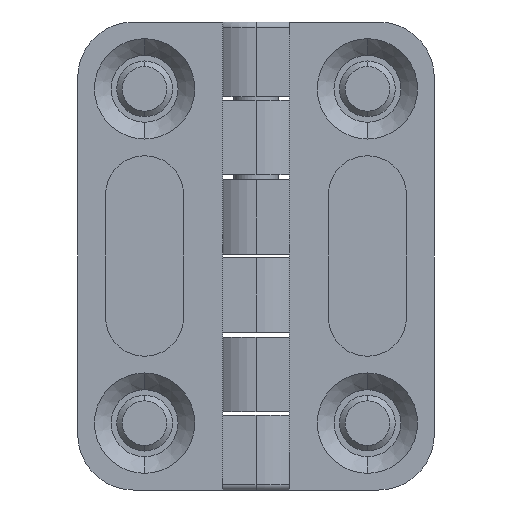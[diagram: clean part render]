
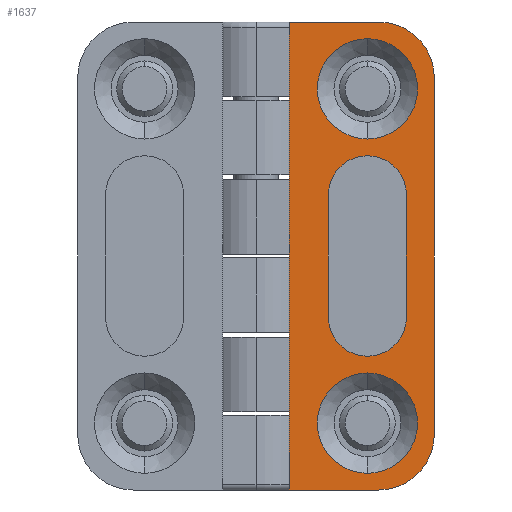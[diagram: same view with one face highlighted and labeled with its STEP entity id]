
A CAD part, front view. The second image highlights one B-rep face of the part: STEP entity #1637.
In plain terms, the highlighted planar face has unit normal (0, -1, 0).
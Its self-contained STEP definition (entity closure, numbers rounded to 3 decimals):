
#13 = VERTEX_POINT ( 'NONE', #156 ) ;
#39 = CIRCLE ( 'NONE', #117, 4.5 ) ;
#75 = EDGE_CURVE ( 'NONE', #1373, #1875, #2124, .T. ) ;
#85 = CARTESIAN_POINT ( 'NONE',  ( 3., -5., 42. ) ) ;
#87 = VERTEX_POINT ( 'NONE', #1918 ) ;
#90 = DIRECTION ( 'NONE',  ( 0., 0., 1. ) ) ;
#108 = EDGE_CURVE ( 'NONE', #2176, #574, #112, .T. ) ;
#110 = DIRECTION ( 'NONE',  ( 0., 1., 0. ) ) ;
#112 = LINE ( 'NONE', #2352, #942 ) ;
#117 = AXIS2_PLACEMENT_3D ( 'NONE', #2267, #487, #255 ) ;
#143 = DIRECTION ( 'NONE',  ( 0., -1., 0. ) ) ;
#147 = EDGE_CURVE ( 'NONE', #641, #87, #2570, .T. ) ;
#149 = VECTOR ( 'NONE', #1257, 1000. ) ;
#156 = CARTESIAN_POINT ( 'NONE',  ( 10., -5., 40.5 ) ) ;
#158 = DIRECTION ( 'NONE',  ( 0., 1., 0. ) ) ;
#179 = EDGE_CURVE ( 'NONE', #641, #1850, #2393, .T. ) ;
#213 = VERTEX_POINT ( 'NONE', #1636 ) ;
#238 = LINE ( 'NONE', #1049, #149 ) ;
#255 = DIRECTION ( 'NONE',  ( 0., 0., 1. ) ) ;
#258 = EDGE_LOOP ( 'NONE', ( #1639, #926, #1092, #696, #1280, #1980 ) ) ;
#272 = CARTESIAN_POINT ( 'NONE',  ( 10., -5., 1.5 ) ) ;
#285 = CARTESIAN_POINT ( 'NONE',  ( 13.5, -5., 30. ) ) ;
#304 = DIRECTION ( 'NONE',  ( 0., 0., 1. ) ) ;
#318 = DIRECTION ( 'NONE',  ( 0., 0., 1. ) ) ;
#331 = ORIENTED_EDGE ( 'NONE', *, *, #1430, .T. ) ;
#383 = ORIENTED_EDGE ( 'NONE', *, *, #1396, .T. ) ;
#399 = AXIS2_PLACEMENT_3D ( 'NONE', #2525, #2106, #318 ) ;
#436 = EDGE_CURVE ( 'NONE', #213, #87, #238, .T. ) ;
#472 = DIRECTION ( 'NONE',  ( 0., 0., 1. ) ) ;
#487 = DIRECTION ( 'NONE',  ( 0., 1., 0. ) ) ;
#489 = AXIS2_PLACEMENT_3D ( 'NONE', #2569, #2396, #604 ) ;
#510 = PLANE ( 'NONE',  #542 ) ;
#512 = ORIENTED_EDGE ( 'NONE', *, *, #1694, .T. ) ;
#538 = FACE_BOUND ( 'NONE', #647, .T. ) ;
#541 = AXIS2_PLACEMENT_3D ( 'NONE', #1195, #158, #962 ) ;
#542 = AXIS2_PLACEMENT_3D ( 'NONE', #85, #896, #2511 ) ;
#553 = CARTESIAN_POINT ( 'NONE',  ( 16., -5., 5. ) ) ;
#574 = VERTEX_POINT ( 'NONE', #2091 ) ;
#583 = AXIS2_PLACEMENT_3D ( 'NONE', #1899, #110, #1710 ) ;
#604 = DIRECTION ( 'NONE',  ( 0., 0., 1. ) ) ;
#613 = EDGE_CURVE ( 'NONE', #1581, #2381, #2314, .T. ) ;
#624 = VECTOR ( 'NONE', #711, 1000. ) ;
#641 = VERTEX_POINT ( 'NONE', #1570 ) ;
#647 = EDGE_LOOP ( 'NONE', ( #1751, #331, #383, #2237, #2247, #2470 ) ) ;
#664 = VERTEX_POINT ( 'NONE', #2391 ) ;
#671 = CARTESIAN_POINT ( 'NONE',  ( 10., -5., 12. ) ) ;
#696 = ORIENTED_EDGE ( 'NONE', *, *, #75, .T. ) ;
#711 = DIRECTION ( 'NONE',  ( 0., 0., -1. ) ) ;
#739 = DIRECTION ( 'NONE',  ( 0., 1., 0. ) ) ;
#798 = VERTEX_POINT ( 'NONE', #671 ) ;
#810 = AXIS2_PLACEMENT_3D ( 'NONE', #1931, #143, #2566 ) ;
#892 = VECTOR ( 'NONE', #1585, 1000. ) ;
#896 = DIRECTION ( 'NONE',  ( 0., 1., 0. ) ) ;
#925 = DIRECTION ( 'NONE',  ( 0., 1., 0. ) ) ;
#926 = ORIENTED_EDGE ( 'NONE', *, *, #436, .F. ) ;
#942 = VECTOR ( 'NONE', #1374, 1000. ) ;
#954 = VERTEX_POINT ( 'NONE', #1893 ) ;
#962 = DIRECTION ( 'NONE',  ( 0., 0., 1. ) ) ;
#966 = CIRCLE ( 'NONE', #1505, 3.5 ) ;
#998 = CIRCLE ( 'NONE', #1663, 4.5 ) ;
#1008 = EDGE_LOOP ( 'NONE', ( #512, #2395 ) ) ;
#1049 = CARTESIAN_POINT ( 'NONE',  ( 3., -5., 42. ) ) ;
#1074 = CIRCLE ( 'NONE', #489, 3.5 ) ;
#1076 = CIRCLE ( 'NONE', #583, 4.5 ) ;
#1080 = FACE_OUTER_BOUND ( 'NONE', #258, .T. ) ;
#1092 = ORIENTED_EDGE ( 'NONE', *, *, #2102, .T. ) ;
#1098 = DIRECTION ( 'NONE',  ( 0., 0., 1. ) ) ;
#1111 = DIRECTION ( 'NONE',  ( 0., 1., 0. ) ) ;
#1179 = EDGE_CURVE ( 'NONE', #1692, #954, #2029, .T. ) ;
#1195 = CARTESIAN_POINT ( 'NONE',  ( 10., -5., 15.5 ) ) ;
#1207 = CARTESIAN_POINT ( 'NONE',  ( 3., -5., 0. ) ) ;
#1251 = CIRCLE ( 'NONE', #1666, 5. ) ;
#1257 = DIRECTION ( 'NONE',  ( 1., 0., 0. ) ) ;
#1278 = CARTESIAN_POINT ( 'NONE',  ( 10., -5., 10.5 ) ) ;
#1280 = ORIENTED_EDGE ( 'NONE', *, *, #2054, .T. ) ;
#1306 = CARTESIAN_POINT ( 'NONE',  ( 10., -5., 31.5 ) ) ;
#1307 = CARTESIAN_POINT ( 'NONE',  ( 10., -5., 30. ) ) ;
#1373 = VERTEX_POINT ( 'NONE', #1207 ) ;
#1374 = DIRECTION ( 'NONE',  ( 0., 0., -1. ) ) ;
#1375 = VECTOR ( 'NONE', #472, 1000. ) ;
#1385 = ORIENTED_EDGE ( 'NONE', *, *, #613, .T. ) ;
#1396 = EDGE_CURVE ( 'NONE', #798, #574, #1074, .T. ) ;
#1430 = EDGE_CURVE ( 'NONE', #664, #798, #2155, .T. ) ;
#1469 = VERTEX_POINT ( 'NONE', #1306 ) ;
#1504 = FACE_BOUND ( 'NONE', #1008, .T. ) ;
#1505 = AXIS2_PLACEMENT_3D ( 'NONE', #1615, #925, #1895 ) ;
#1507 = ORIENTED_EDGE ( 'NONE', *, *, #1621, .T. ) ;
#1563 = DIRECTION ( 'NONE',  ( 1., 0., 0. ) ) ;
#1570 = CARTESIAN_POINT ( 'NONE',  ( 16., -5., 37. ) ) ;
#1581 = VERTEX_POINT ( 'NONE', #272 ) ;
#1585 = DIRECTION ( 'NONE',  ( 0., 0., -1. ) ) ;
#1595 = CARTESIAN_POINT ( 'NONE',  ( 11., -5., 0. ) ) ;
#1615 = CARTESIAN_POINT ( 'NONE',  ( 10., -5., 26.5 ) ) ;
#1621 = EDGE_CURVE ( 'NONE', #2381, #1581, #998, .T. ) ;
#1636 = CARTESIAN_POINT ( 'NONE',  ( 3., -5., 42. ) ) ;
#1637 = ADVANCED_FACE ( 'NONE', ( #538, #1080, #1504, #1872 ), #510, .F. ) ;
#1639 = ORIENTED_EDGE ( 'NONE', *, *, #147, .T. ) ;
#1663 = AXIS2_PLACEMENT_3D ( 'NONE', #1722, #1111, #304 ) ;
#1666 = AXIS2_PLACEMENT_3D ( 'NONE', #1878, #2460, #90 ) ;
#1687 = LINE ( 'NONE', #285, #1375 ) ;
#1692 = VERTEX_POINT ( 'NONE', #1307 ) ;
#1694 = EDGE_CURVE ( 'NONE', #1469, #13, #1076, .T. ) ;
#1710 = DIRECTION ( 'NONE',  ( 0., 0., 1. ) ) ;
#1718 = CARTESIAN_POINT ( 'NONE',  ( 3., -5., 42. ) ) ;
#1722 = CARTESIAN_POINT ( 'NONE',  ( 10., -5., 6. ) ) ;
#1751 = ORIENTED_EDGE ( 'NONE', *, *, #1947, .F. ) ;
#1850 = VERTEX_POINT ( 'NONE', #553 ) ;
#1872 = FACE_BOUND ( 'NONE', #2293, .T. ) ;
#1875 = VERTEX_POINT ( 'NONE', #1595 ) ;
#1878 = CARTESIAN_POINT ( 'NONE',  ( 11., -5., 5. ) ) ;
#1893 = CARTESIAN_POINT ( 'NONE',  ( 13.5, -5., 26.5 ) ) ;
#1895 = DIRECTION ( 'NONE',  ( 0., 0., 1. ) ) ;
#1899 = CARTESIAN_POINT ( 'NONE',  ( 10., -5., 36. ) ) ;
#1906 = CARTESIAN_POINT ( 'NONE',  ( 6.5, -5., 26.5 ) ) ;
#1918 = CARTESIAN_POINT ( 'NONE',  ( 11., -5., 42. ) ) ;
#1931 = CARTESIAN_POINT ( 'NONE',  ( 11., -5., 37. ) ) ;
#1947 = EDGE_CURVE ( 'NONE', #664, #954, #1687, .T. ) ;
#1954 = AXIS2_PLACEMENT_3D ( 'NONE', #2311, #739, #1098 ) ;
#1980 = ORIENTED_EDGE ( 'NONE', *, *, #179, .F. ) ;
#2015 = CARTESIAN_POINT ( 'NONE',  ( 16., -5., 42. ) ) ;
#2024 = EDGE_CURVE ( 'NONE', #13, #1469, #39, .T. ) ;
#2029 = CIRCLE ( 'NONE', #1954, 3.5 ) ;
#2054 = EDGE_CURVE ( 'NONE', #1875, #1850, #1251, .T. ) ;
#2091 = CARTESIAN_POINT ( 'NONE',  ( 6.5, -5., 15.5 ) ) ;
#2102 = EDGE_CURVE ( 'NONE', #213, #1373, #2253, .T. ) ;
#2106 = DIRECTION ( 'NONE',  ( 0., 1., 0. ) ) ;
#2124 = LINE ( 'NONE', #2147, #2309 ) ;
#2147 = CARTESIAN_POINT ( 'NONE',  ( 3., -5., 0. ) ) ;
#2155 = CIRCLE ( 'NONE', #541, 3.5 ) ;
#2176 = VERTEX_POINT ( 'NONE', #1906 ) ;
#2237 = ORIENTED_EDGE ( 'NONE', *, *, #108, .F. ) ;
#2247 = ORIENTED_EDGE ( 'NONE', *, *, #2412, .T. ) ;
#2253 = LINE ( 'NONE', #1718, #624 ) ;
#2267 = CARTESIAN_POINT ( 'NONE',  ( 10., -5., 36. ) ) ;
#2293 = EDGE_LOOP ( 'NONE', ( #1385, #1507 ) ) ;
#2309 = VECTOR ( 'NONE', #1563, 1000. ) ;
#2311 = CARTESIAN_POINT ( 'NONE',  ( 10., -5., 26.5 ) ) ;
#2314 = CIRCLE ( 'NONE', #399, 4.5 ) ;
#2352 = CARTESIAN_POINT ( 'NONE',  ( 6.5, -5., 30. ) ) ;
#2381 = VERTEX_POINT ( 'NONE', #1278 ) ;
#2391 = CARTESIAN_POINT ( 'NONE',  ( 13.5, -5., 15.5 ) ) ;
#2393 = LINE ( 'NONE', #2015, #892 ) ;
#2395 = ORIENTED_EDGE ( 'NONE', *, *, #2024, .T. ) ;
#2396 = DIRECTION ( 'NONE',  ( 0., 1., 0. ) ) ;
#2412 = EDGE_CURVE ( 'NONE', #2176, #1692, #966, .T. ) ;
#2460 = DIRECTION ( 'NONE',  ( 0., -1., 0. ) ) ;
#2470 = ORIENTED_EDGE ( 'NONE', *, *, #1179, .T. ) ;
#2511 = DIRECTION ( 'NONE',  ( 0., 0., 1. ) ) ;
#2525 = CARTESIAN_POINT ( 'NONE',  ( 10., -5., 6. ) ) ;
#2566 = DIRECTION ( 'NONE',  ( 0., 0., 1. ) ) ;
#2569 = CARTESIAN_POINT ( 'NONE',  ( 10., -5., 15.5 ) ) ;
#2570 = CIRCLE ( 'NONE', #810, 5. ) ;
